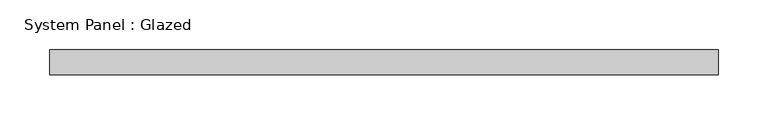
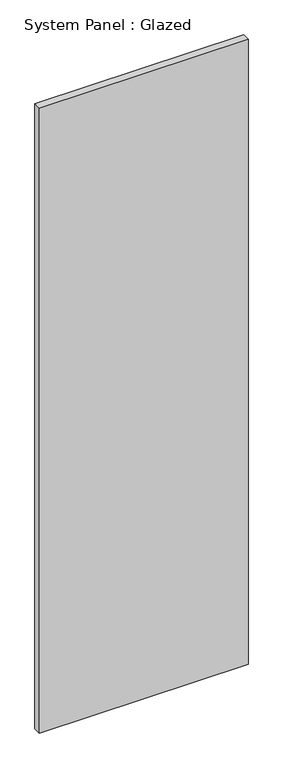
"""IFC4 building model written with IfcOpenShell, lengths in millimetres: plate geometry, System Panel : Glazed."""

from ifc_helpers import new_model, si_unit, origin, origin_with_axes, place, context, project, spatial, polyline, outline, extrude, source, transform, mapped, element, save


def system_panel_glazed_fb9e9887(model_context):
    return source(origin(), model_context, "Body", "SweptSolid", [
        extrude(outline(polyline([(335.8333333, -12.5), (-335.8333333, -12.5), (-335.8333333, 12.5), (335.8333333, 12.5), (335.8333333, -12.5)])), origin_with_axes(), (0.0, 0.0, 1.0), 2126.0),
    ])


if __name__ == "__main__":
    model = new_model("IFC4")
    model_context = context("Model", 3, world=origin())
    ifc_project = project(units=[si_unit("LENGTHUNIT", "METRE", prefix="MILLI")], contexts=[model_context])
    site = spatial("IfcSite", under=ifc_project)
    building = spatial("IfcBuilding", under=site)
    placement = place(None, origin())
    system_panel_glazed_shape = system_panel_glazed_fb9e9887(model_context)
    element("IfcPlate", 1, ObjectType="System Panel : Glazed", at=placement, inside=building, context=model_context, shape_type="MappedRepresentation", body=[
        mapped(system_panel_glazed_shape, transform((0.0, 0.0, 0.0), x_axis=(1.0, 0.0, 0.0), y_axis=(0.0, 1.0, 0.0), z_axis=(0.0, 0.0, 1.0))),
    ])
    save(model, "model.ifc")
